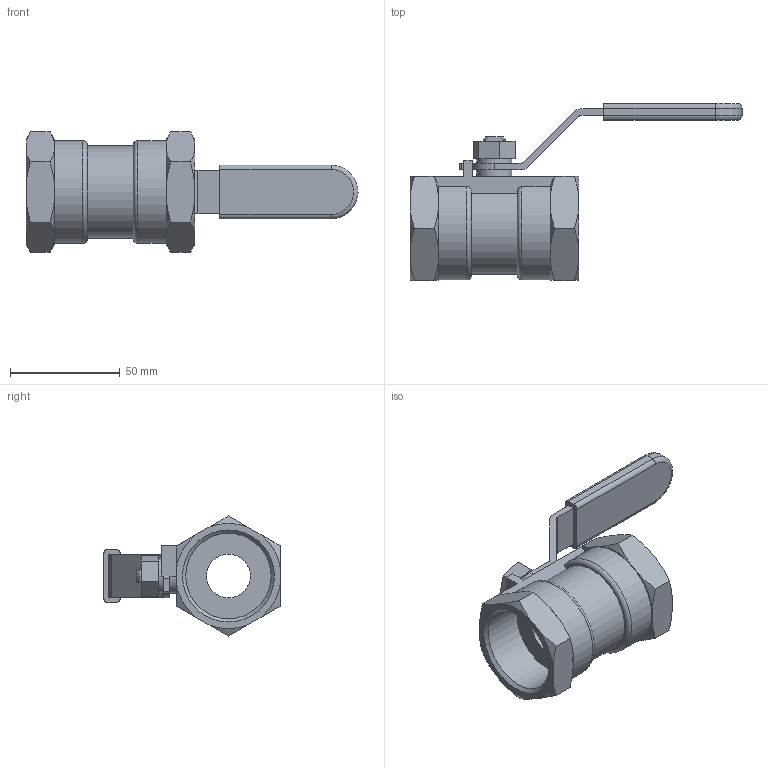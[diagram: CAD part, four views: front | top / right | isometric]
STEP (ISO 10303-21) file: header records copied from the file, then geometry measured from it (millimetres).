
FILE_DESCRIPTION(/* description */ ('Eriks item no: 12427438'),/* implementation_level */ '2;1');
FILE_NAME(/* name */ '7744-DN32-RB-1000PSI-BSP.stp',/* time_stamp */ '2024-02-16T09:51:15+01:00',/* author */ ('roger.thijssen'),/* organization */ (''),/* preprocessor_version */ 'ST-DEVELOPER v19.2',/* originating_system */ 'Autodesk Inventor 2024',/* authorisation */ '');
FILE_SCHEMA (('AUTOMOTIVE_DESIGN { 1 0 10303 214 3 1 1 }'));
Length unit declared in the file: millimetre
Products named in the file (1): Ball valve, 7744-DN32-RB-1000PSI-BSP
Bounding box: 151.5 x 80.75 x 54.85 mm (x, y, z)
Volume: 94234.7 mm3; surface area: 30659.3 mm2
Topology: 1 solids, 1 shells, 333 faces, 880 edges, 582 vertices
Faces by surface type: plane 248, cylinder 49, cone 28, bspline 4, torus 4
Full cylindrical faces by diameter (mm): 16 x2, 20 x1, 38.952 x2
Entity records: 10620 total; most frequent: CARTESIAN_POINT 1996, ORIENTED_EDGE 1760, DIRECTION 1606, EDGE_CURVE 880, LINE 686, VECTOR 686, VERTEX_POINT 582, AXIS2_PLACEMENT_3D 460
